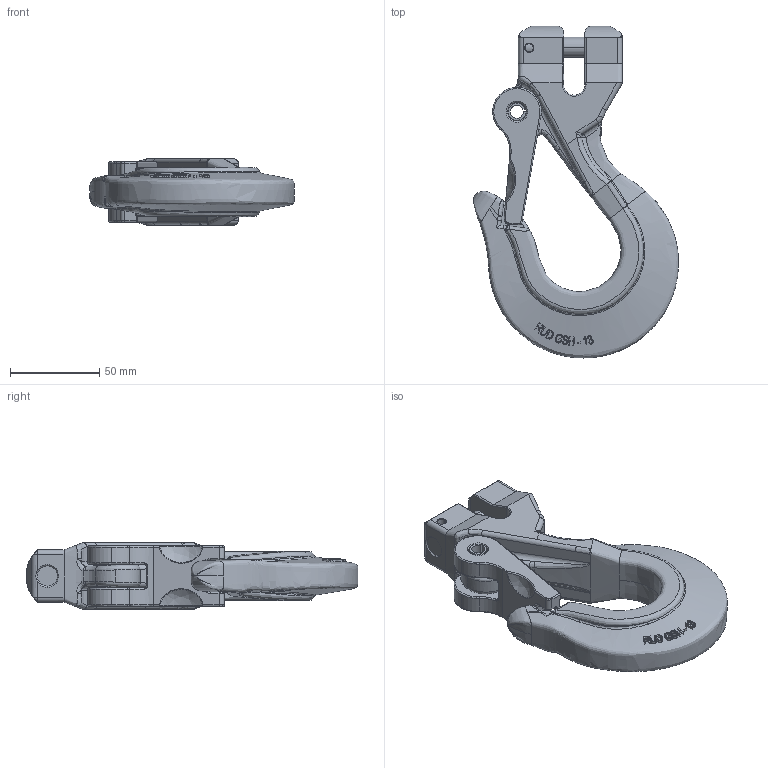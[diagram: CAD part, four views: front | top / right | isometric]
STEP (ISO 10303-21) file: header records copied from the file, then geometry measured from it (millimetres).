
FILE_DESCRIPTION (( 'STEP AP203' ), '1' );
FILE_NAME ('GSH-13.STEP', '2013-04-10T14:11:48', ( '' ), ( '' ), 'SwSTEP 2.0', 'SolidWorks 2012', '' );
FILE_SCHEMA (( 'CONFIG_CONTROL_DESIGN' ));
Products named in the file (1): GSH-13
Bounding box: 114.95 x 186.39 x 37.33 mm (x, y, z)
Volume: 252885.8 mm3; surface area: 50452.2 mm2
Topology: 3 solids, 3 shells, 503 faces, 1342 edges, 828 vertices
Faces by surface type: bspline 257, cylinder 118, plane 111, cone 17
Entity records: 69219 total; most frequent: CARTESIAN_POINT 58991, ORIENTED_EDGE 2614, DIRECTION 1388, EDGE_CURVE 1307, VERTEX_POINT 826, B_SPLINE_CURVE_WITH_KNOTS 611, EDGE_LOOP 523, AXIS2_PLACEMENT_3D 512
